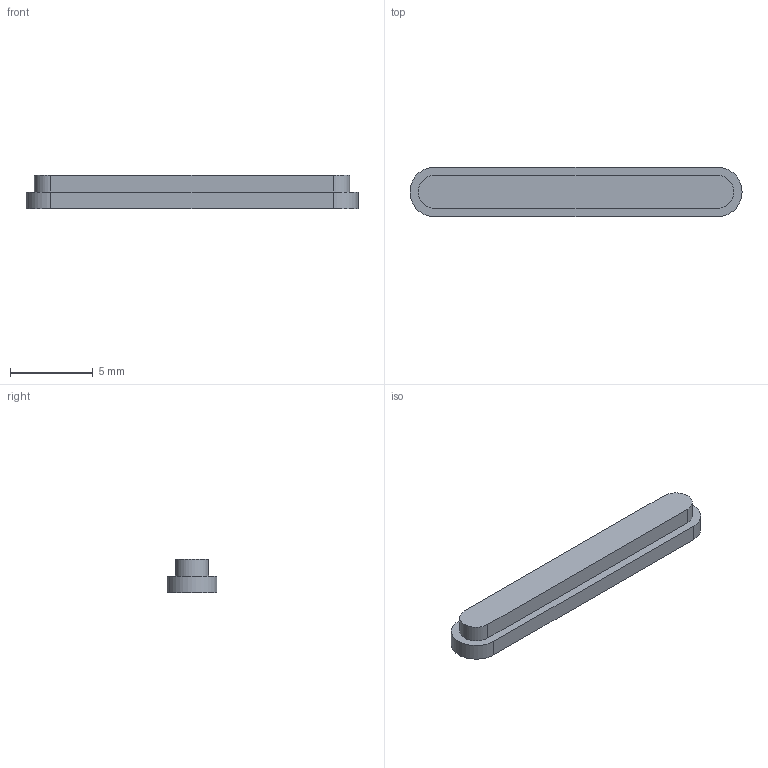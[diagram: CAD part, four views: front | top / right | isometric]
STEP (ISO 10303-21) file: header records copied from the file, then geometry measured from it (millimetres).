
FILE_DESCRIPTION(/* description */ ('STEP AP242','CAx-IF Rec.Pracs.---Representation and Presentation of Product Manufacturing Information (PMI)---4.0---2014-10-13','CAx-IF Rec.Pracs.---3D Tessellated Geometry---0.4---2014-09-14','2;1'),/* implementation_level */ '2;1');
FILE_NAME(/* name */ '687e6b9ef344454910d4802c',/* time_stamp */ '2025-07-21T16:32:31Z',/* author */ (''),/* organization */ (''),/* preprocessor_version */ 'ST-DEVELOPER v20',/* originating_system */ 'ONSHAPE BY PTC INC, 1.201',/* authorisation */ ' ');
FILE_SCHEMA (('AP242_MANAGED_MODEL_BASED_3D_ENGINEERING_MIM_LF { 1 0 10303 442 1 1 4 }'));
Length unit declared in the file: metre
Products named in the file (1): Camera Slot Cover
Bounding box: 20 x 3 x 2 mm (x, y, z)
Volume: 95.2 mm3; surface area: 199.8 mm2
Topology: 1 solids, 1 shells, 11 faces, 24 edges, 16 vertices
Faces by surface type: plane 7, cylinder 4
Entity records: 328 total; most frequent: DIRECTION 56, CARTESIAN_POINT 52, ORIENTED_EDGE 48, EDGE_CURVE 24, AXIS2_PLACEMENT_3D 20, VERTEX_POINT 16, LINE 16, VECTOR 16
